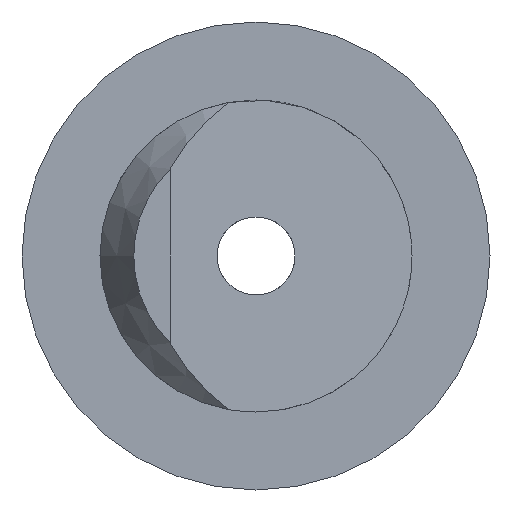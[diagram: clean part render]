
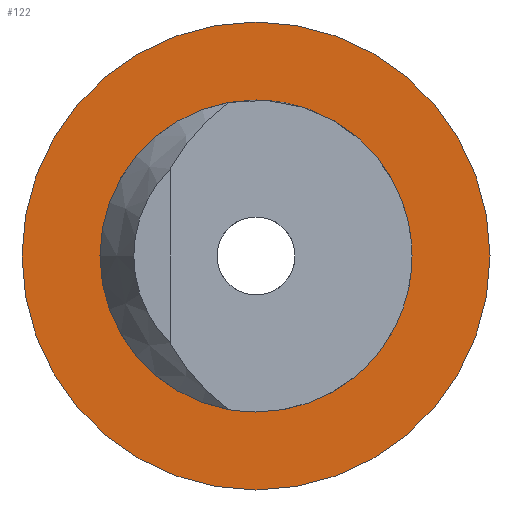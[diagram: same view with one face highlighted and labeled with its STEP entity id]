
A CAD part, front view. The second image highlights one B-rep face of the part: STEP entity #122.
In plain terms, the highlighted planar face has unit normal (0, -1, 0).
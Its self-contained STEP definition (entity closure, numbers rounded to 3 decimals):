
#20=CIRCLE('',#159,6.);
#22=CIRCLE('',#162,4.);
#26=FACE_BOUND('',#41,.T.);
#31=FACE_OUTER_BOUND('',#40,.T.);
#40=EDGE_LOOP('',(#97));
#41=EDGE_LOOP('',(#98));
#66=VERTEX_POINT('',#230);
#68=VERTEX_POINT('',#236);
#77=EDGE_CURVE('',#66,#66,#20,.T.);
#80=EDGE_CURVE('',#68,#68,#22,.T.);
#97=ORIENTED_EDGE('',*,*,#77,.T.);
#98=ORIENTED_EDGE('',*,*,#80,.F.);
#117=PLANE('',#161);
#122=ADVANCED_FACE('',(#31,#26),#117,.T.);
#159=AXIS2_PLACEMENT_3D('',#231,#190,#191);
#161=AXIS2_PLACEMENT_3D('',#235,#195,#196);
#162=AXIS2_PLACEMENT_3D('',#237,#197,#198);
#190=DIRECTION('center_axis',(0.,-1.,0.));
#191=DIRECTION('ref_axis',(1.,0.,0.));
#195=DIRECTION('center_axis',(0.,-1.,0.));
#196=DIRECTION('ref_axis',(0.,0.,-1.));
#197=DIRECTION('center_axis',(0.,-1.,0.));
#198=DIRECTION('ref_axis',(1.,0.,0.));
#230=CARTESIAN_POINT('',(6.,0.,0.));
#231=CARTESIAN_POINT('Origin',(0.,0.,
0.));
#235=CARTESIAN_POINT('Origin',(-4.,0.,0.));
#236=CARTESIAN_POINT('',(4.,0.,0.));
#237=CARTESIAN_POINT('Origin',(0.,0.,
0.));
